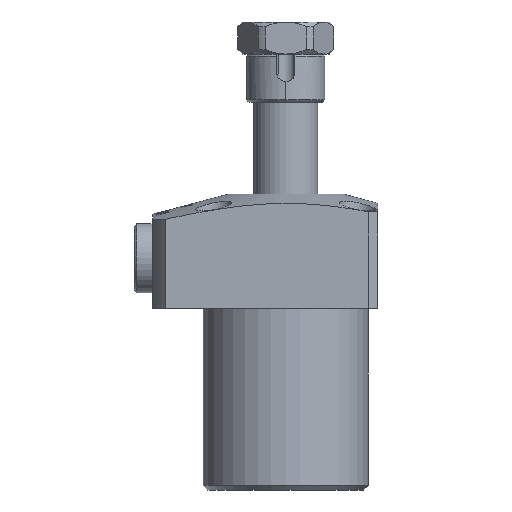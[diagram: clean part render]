
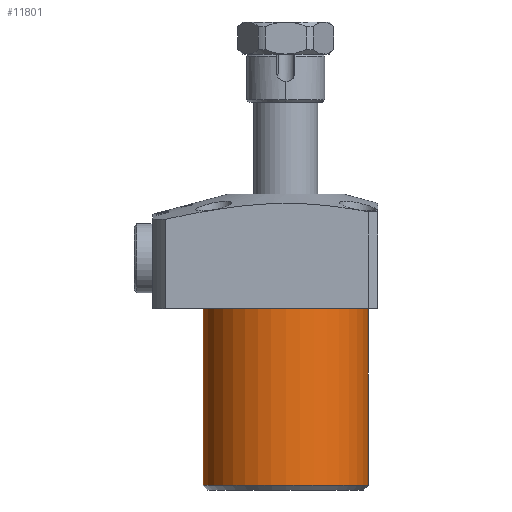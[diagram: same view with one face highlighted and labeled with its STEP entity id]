
A CAD part, front view. The second image highlights one B-rep face of the part: STEP entity #11801.
In plain terms, the highlighted cylindrical face has radius 18 mm (diameter 36 mm), a partial arc.
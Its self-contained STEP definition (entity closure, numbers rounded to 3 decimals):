
#104 = DIRECTION ( 'NONE',  ( -1., 0., 0. ) ) ;
#266 = CYLINDRICAL_SURFACE ( 'NONE', #7147, 18. ) ;
#329 = CARTESIAN_POINT ( 'NONE',  ( 0., 0., 0. ) ) ;
#1091 = AXIS2_PLACEMENT_3D ( 'NONE', #329, #9478, #1672 ) ;
#1096 = CIRCLE ( 'NONE', #1091, 18. ) ;
#1433 = CARTESIAN_POINT ( 'NONE',  ( 0., 0., -39.5 ) ) ;
#1672 = DIRECTION ( 'NONE',  ( -1., 0., 0. ) ) ;
#1869 = ORIENTED_EDGE ( 'NONE', *, *, #6091, .T. ) ;
#2730 = DIRECTION ( 'NONE',  ( 1., 0., 0. ) ) ;
#3423 = EDGE_CURVE ( 'NONE', #7493, #5870, #12617, .T. ) ;
#3716 = ORIENTED_EDGE ( 'NONE', *, *, #8078, .T. ) ;
#4048 = ORIENTED_EDGE ( 'NONE', *, *, #3423, .F. ) ;
#5646 = CARTESIAN_POINT ( 'NONE',  ( 18., 0., 0. ) ) ;
#5676 = VECTOR ( 'NONE', #12855, 1000. ) ;
#5870 = VERTEX_POINT ( 'NONE', #14979 ) ;
#6091 = EDGE_CURVE ( 'NONE', #7493, #15154, #8943, .T. ) ;
#6174 = EDGE_LOOP ( 'NONE', ( #4048, #1869, #3716, #14258 ) ) ;
#7147 = AXIS2_PLACEMENT_3D ( 'NONE', #1433, #14381, #2730 ) ;
#7493 = VERTEX_POINT ( 'NONE', #15964 ) ;
#7526 = VERTEX_POINT ( 'NONE', #5646 ) ;
#7928 = DIRECTION ( 'NONE',  ( 0., 0., 1. ) ) ;
#8078 = EDGE_CURVE ( 'NONE', #15154, #7526, #12175, .T. ) ;
#8112 = AXIS2_PLACEMENT_3D ( 'NONE', #15723, #7928, #104 ) ;
#8550 = CARTESIAN_POINT ( 'NONE',  ( 18., 0., -39.5 ) ) ;
#8943 = CIRCLE ( 'NONE', #8112, 18. ) ;
#9478 = DIRECTION ( 'NONE',  ( 0., 0., -1. ) ) ;
#11801 = ADVANCED_FACE ( 'NONE', ( #14535 ), #266, .T. ) ;
#12175 = LINE ( 'NONE', #8550, #15655 ) ;
#12617 = LINE ( 'NONE', #15426, #5676 ) ;
#12855 = DIRECTION ( 'NONE',  ( 0., 0., 1. ) ) ;
#13585 = CARTESIAN_POINT ( 'NONE',  ( 18., 0., -38.5 ) ) ;
#14258 = ORIENTED_EDGE ( 'NONE', *, *, #15819, .T. ) ;
#14381 = DIRECTION ( 'NONE',  ( 0., 0., 1. ) ) ;
#14535 = FACE_OUTER_BOUND ( 'NONE', #6174, .T. ) ;
#14979 = CARTESIAN_POINT ( 'NONE',  ( -18., 0., 0. ) ) ;
#15154 = VERTEX_POINT ( 'NONE', #13585 ) ;
#15426 = CARTESIAN_POINT ( 'NONE',  ( -18., 0., -39.5 ) ) ;
#15655 = VECTOR ( 'NONE', #16324, 1000. ) ;
#15723 = CARTESIAN_POINT ( 'NONE',  ( 0., 0., -38.5 ) ) ;
#15819 = EDGE_CURVE ( 'NONE', #7526, #5870, #1096, .T. ) ;
#15964 = CARTESIAN_POINT ( 'NONE',  ( -18., 0., -38.5 ) ) ;
#16324 = DIRECTION ( 'NONE',  ( 0., 0., 1. ) ) ;
